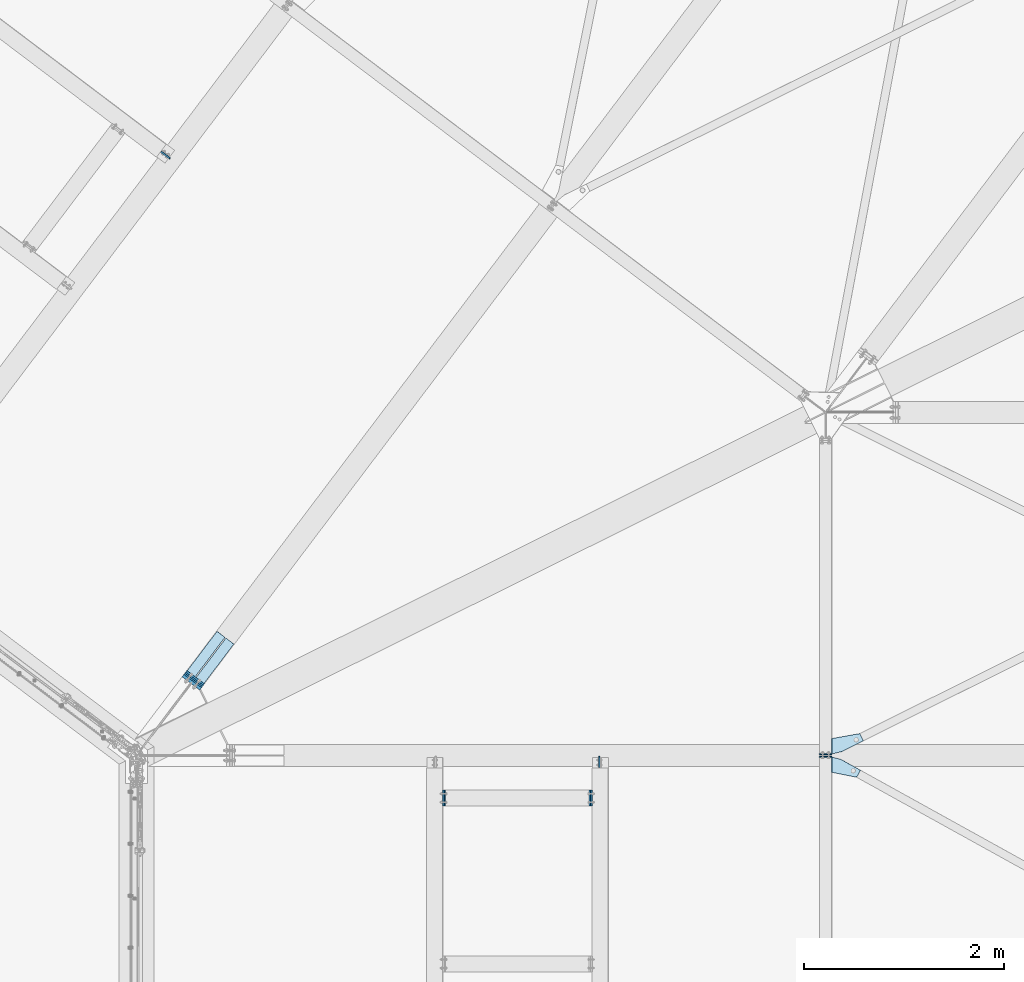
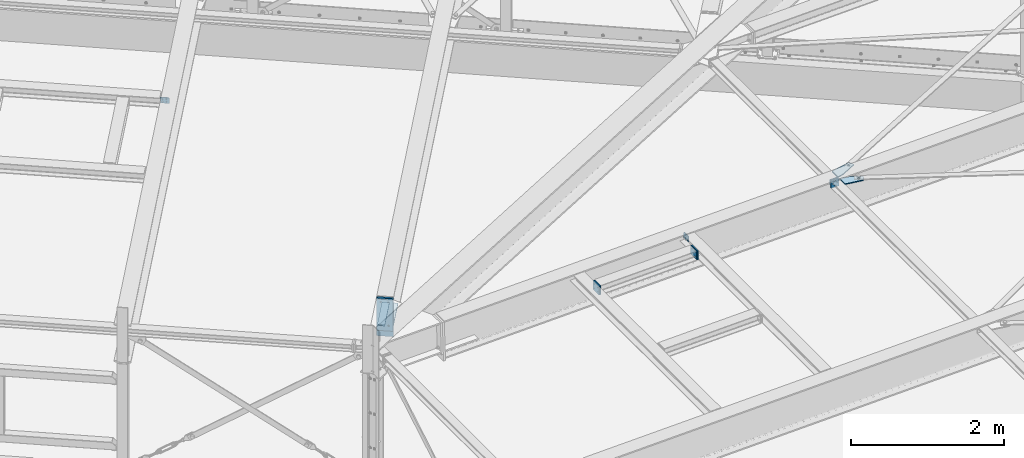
# One storey, part 53 of 476: 14 plates, 60 openings.
"""IFC2X3 building model written with IfcOpenShell, lengths in millimetres."""

import ifcopenshell
import ifcopenshell.guid

model = None  # the IFC model being written
_history = None  # IfcOwnerHistory: only IFC2X3 demands one
_inside = {}  # id of a spatial element -> (the spatial element, [elements in it])
_under = {}  # id of a project, library or spatial element -> (it, [spatial elements below it])
_declared = {}  # id of a project -> (the project, [libraries it declares])
_typed = {}  # id of a type object -> (the type object, [elements of that type])
_made_of = {}  # id of a material, layer set ... -> (it, [elements and type objects made of it])


def new_model(schema):
    """Start an empty IFC model of exactly this schema.

    Asked for "IFC4X3", IfcOpenShell would pick the latest addendum, in which some entities
    have other attributes; the version numbers below select the first issue.
    IFC2X3 requires an IfcOwnerHistory on every rooted entity: one is made here for all.
    """
    global model, _history
    if schema == "IFC4X3":
        model = ifcopenshell.file(schema_version=(4, 3, 0, 0))
    else:
        model = ifcopenshell.file(schema=schema)
    _inside.clear()
    _under.clear()
    _declared.clear()
    _typed.clear()
    _made_of.clear()
    _history = None
    if model.schema == "IFC2X3":
        org = make("IfcOrganization", Name="unknown")
        user = make(
            "IfcPersonAndOrganization",
            ThePerson=make("IfcPerson", FamilyName="unknown"),
            TheOrganization=org,
        )
        app = make(
            "IfcApplication",
            ApplicationDeveloper=org,
            Version="unknown",
            ApplicationFullName="unknown",
            ApplicationIdentifier="unknown",
        )
        _history = make(
            "IfcOwnerHistory",
            OwningUser=user,
            OwningApplication=app,
            ChangeAction="ADDED",
            CreationDate=0,
        )
    return model


def make(cls, **values):
    """One entity of the class cls with the attributes given. An attribute that is None is left unset."""
    return model.create_entity(
        cls, **{name: value for name, value in values.items() if value is not None}
    )


def entity(cls, *values):
    """Any entity or typed value of the class cls, its attributes in the order of the schema. None: left unset."""
    e = model.create_entity(cls)
    for i, value in enumerate(values):
        if value is not None:
            e[i] = value
    return e


def rooted(cls, **values):
    """An entity with a GlobalId (a new one), such as an element, a storey or a relation."""
    return make(cls, GlobalId=ifcopenshell.guid.new(), OwnerHistory=_history, **values)


def si_unit(unit_type, name, prefix=None):
    """IfcSIUnit, for example si_unit("LENGTHUNIT", "METRE", prefix="MILLI")."""
    return make("IfcSIUnit", UnitType=unit_type, Prefix=prefix, Name=name)


def converted_unit(unit_type, name, factor, base, dimensions=None, offset=None):
    """IfcConversionBasedUnit, such as the inch: factor (a typed value) times the base unit."""
    return make(
        "IfcConversionBasedUnit"
        if offset is None
        else "IfcConversionBasedUnitWithOffset",
        ConversionOffset=offset,
        Dimensions=None
        if dimensions is None
        else entity("IfcDimensionalExponents", *dimensions),
        UnitType=unit_type,
        Name=name,
        ConversionFactor=make(
            "IfcMeasureWithUnit", ValueComponent=factor, UnitComponent=base
        ),
    )


def assignment(units):
    """IfcUnitAssignment: the units of a project."""
    return None if units is None else make("IfcUnitAssignment", Units=units)


def point(xyz):
    """IfcCartesianPoint."""
    return None if xyz is None else make("IfcCartesianPoint", Coordinates=xyz)


def direction(xyz):
    """IfcDirection."""
    return None if xyz is None else make("IfcDirection", DirectionRatios=xyz)


def frame(location, z_axis=None, x_axis=None):
    """IfcAxis2Placement3D, a coordinate frame: its origin and axes. An axis left out is left unset."""
    return make(
        "IfcAxis2Placement3D",
        Location=point(location),
        Axis=direction(z_axis),
        RefDirection=direction(x_axis),
    )


def frame_2d(location, x_axis=None):
    """IfcAxis2Placement2D, a coordinate frame in the plane: its origin and x axis."""
    return make(
        "IfcAxis2Placement2D", Location=point(location), RefDirection=direction(x_axis)
    )


def origin():
    """The frame at (0, 0, 0) with its axes left unset."""
    return frame((0.0, 0.0, 0.0))


def origin_with_axes():
    """The frame at (0, 0, 0) with the z axis (0, 0, 1) and the x axis (1, 0, 0) written out."""
    return frame((0.0, 0.0, 0.0), z_axis=(0.0, 0.0, 1.0), x_axis=(1.0, 0.0, 0.0))


def origin_2d_with_axis():
    """The frame at (0, 0) in the plane with the x axis (1, 0) written out."""
    return frame_2d((0.0, 0.0), x_axis=(1.0, 0.0))


def place(relative_to, where):
    """IfcLocalPlacement: puts the frame where relative to a parent placement (None: the world)."""
    return make(
        "IfcLocalPlacement", PlacementRelTo=relative_to, RelativePlacement=where
    )


def context(
    kind, dimensions, precision=None, world=None, true_north=None, identifier=None
):
    """IfcGeometricRepresentationContext, for example the 3D "Model" context."""
    return make(
        "IfcGeometricRepresentationContext",
        ContextIdentifier=identifier,
        ContextType=kind,
        CoordinateSpaceDimension=dimensions,
        Precision=precision,
        WorldCoordinateSystem=world,
        TrueNorth=true_north,
    )


def project(units=None, contexts=None):
    """IfcProject with its units and contexts."""
    return rooted(
        "IfcProject",
        Name="project",
        RepresentationContexts=contexts,
        UnitsInContext=assignment(units),
    )


def spatial(cls, under=None, at=None, **own):
    """A site, building, storey or space (cls), placed at a placement, below another one or the project."""
    s = rooted(cls, ObjectPlacement=at, **own)
    if under is not None:
        _under.setdefault(under.id(), (under, []))[1].append(s)
    return s


def polyline(points):
    """IfcPolyline through the points."""
    return make("IfcPolyline", Points=[point(p) for p in points])


def circle_curve(where, radius):
    """IfcCircle in the frame where."""
    return make("IfcCircle", Position=where, Radius=radius)


def line_curve(start, along, magnitude):
    """IfcLine from a point along a vector."""
    return make(
        "IfcLine",
        Pnt=point(start),
        Dir=make("IfcVector", Orientation=direction(along), Magnitude=magnitude),
    )


def trimmed(basis, trim1, trim2, sense, master):
    """IfcTrimmedCurve: the piece of a basis curve between two trims."""
    return make(
        "IfcTrimmedCurve",
        BasisCurve=basis,
        Trim1=trim1,
        Trim2=trim2,
        SenseAgreement=sense,
        MasterRepresentation=master,
    )


def segment(curve, same_sense, transition):
    """IfcCompositeCurveSegment."""
    return make(
        "IfcCompositeCurveSegment",
        Transition=transition,
        SameSense=same_sense,
        ParentCurve=curve,
    )


def composite_curve(segments, self_intersect=None):
    """IfcCompositeCurve: segments joined end to end."""
    return make("IfcCompositeCurve", Segments=segments, SelfIntersect=self_intersect)


def profile(cls, at=None, kind="AREA", **sizes):
    """A parametric profile (cls). Its sizes go by their IFC names, for example OverallWidth=200.0."""
    return make(cls, ProfileType=kind, Position=at, **sizes)


def circle(**sizes):
    """IfcCircleProfileDef."""
    return profile("IfcCircleProfileDef", **sizes)


def outline(outer, holes=None, kind="AREA"):
    """IfcArbitraryClosedProfileDef: a profile drawn as a closed curve; with holes, ...WithVoids."""
    if holes is None:
        return make("IfcArbitraryClosedProfileDef", ProfileType=kind, OuterCurve=outer)
    return make(
        "IfcArbitraryProfileDefWithVoids",
        ProfileType=kind,
        OuterCurve=outer,
        InnerCurves=holes,
    )


def extrude(swept, where, along, depth):
    """IfcExtrudedAreaSolid: the profile swept, set in the frame where, extruded along a direction by depth."""
    return make(
        "IfcExtrudedAreaSolid",
        SweptArea=swept,
        Position=where,
        ExtrudedDirection=direction(along),
        Depth=depth,
    )


def shape(context_of_items, identifier, shape_type, items):
    """IfcShapeRepresentation: the items that make up one representation, for example the "Body"."""
    return make(
        "IfcShapeRepresentation",
        ContextOfItems=context_of_items,
        RepresentationIdentifier=identifier,
        RepresentationType=shape_type,
        Items=items,
    )


def material(Name=None, Category=None):
    """IfcMaterial."""
    return make("IfcMaterial", Name=Name, Category=Category)


def layer(
    of_material, thickness, ventilated=None, Name=None, Category=None, Priority=None
):
    """IfcMaterialLayer: one layer of a wall or slab, of a material (None: an air gap)."""
    return make(
        "IfcMaterialLayer",
        Material=of_material,
        LayerThickness=thickness,
        IsVentilated=ventilated,
        Name=Name,
        Category=Category,
        Priority=Priority,
    )


def layer_set(layers, Name=None):
    """IfcMaterialLayerSet."""
    return make("IfcMaterialLayerSet", MaterialLayers=layers, LayerSetName=Name)


def made_of(thing, what):
    """Note that an element or type object is made of a material, layer set ...; save() writes the relation."""
    if what is not None:
        _made_of.setdefault(what.id(), (what, []))[1].append(thing)
    return thing


def element(
    cls,
    number,
    at=None,
    inside=None,
    cuts=None,
    type_object=None,
    material=None,
    context=None,
    identifier="Body",
    shape_type=None,
    held_by="IfcProductDefinitionShape",
    body=None,
    shapes=None,
    **own,
):
    """One element of the class cls, such as IfcWall. Its Tag is "e" and its number.

    at: its placement. inside: the storey or other place that contains it. cuts: it is an
    opening in that element (IfcRelVoidsElement). A single representation is given by context,
    identifier, shape_type and body (its items); several are given by shapes. held_by: the class
    of the entity that holds the representations. save() writes the other relations.
    """
    e = rooted(cls, Tag="e%d" % number, ObjectPlacement=at, **own)
    if body is not None:
        shapes = [shape(context, identifier, shape_type, body)]
    if shapes is not None:
        e.Representation = make(held_by, Representations=shapes)
    if inside is not None:
        _inside.setdefault(inside.id(), (inside, []))[1].append(e)
    if cuts is not None:
        rooted(
            "IfcRelVoidsElement", RelatingBuildingElement=cuts, RelatedOpeningElement=e
        )
    if type_object is not None:
        _typed.setdefault(type_object.id(), (type_object, []))[1].append(e)
    return made_of(e, material)


def aggregate(whole, parts):
    """IfcRelAggregates: a whole, such as a stair, and the parts it consists of."""
    return rooted("IfcRelAggregates", RelatingObject=whole, RelatedObjects=parts)


def save(model, path):
    """Write the relations noted so far, then the file.

    IfcRelAggregates (storeys below a building ...), IfcRelContainedInSpatialStructure (elements
    in a storey), IfcRelDefinesByType, IfcRelAssociatesMaterial and IfcRelDeclares: one each for
    every whole, place, type object, material and project.
    """
    for whole, parts in _under.values():
        aggregate(whole, parts)
    for where, things in _inside.values():
        rooted(
            "IfcRelContainedInSpatialStructure",
            RelatedElements=things,
            RelatingStructure=where,
        )
    for kind, things in _typed.values():
        rooted("IfcRelDefinesByType", RelatedObjects=things, RelatingType=kind)
    for what, things in _made_of.values():
        rooted("IfcRelAssociatesMaterial", RelatedObjects=things, RelatingMaterial=what)
    for by, libraries in _declared.values():
        rooted("IfcRelDeclares", RelatingContext=by, RelatedDefinitions=libraries)
    model.write(path)


model = new_model("IFC2X3")

# Units and contexts
model_context = context("Model", 3, precision=1e-09, world=origin_with_axes())
ifc_project = project(units=[si_unit("LENGTHUNIT", "METRE", prefix="MILLI"), si_unit("AREAUNIT", "SQUARE_METRE"), si_unit("VOLUMEUNIT", "CUBIC_METRE"), converted_unit("PLANEANGLEUNIT", "DEGREE", entity("IfcPlaneAngleMeasure", 0.01745329), si_unit("PLANEANGLEUNIT", "RADIAN"), dimensions=[0, 0, 0, 0, 0, 0, 0])], contexts=[model_context])

# Site, building, storey
site_placement = place(None, origin_with_axes())
site = spatial("IfcSite", under=ifc_project, at=site_placement, Name="mKR Teilneubau & Sanierung BA1 - Ostfildern", CompositionType="ELEMENT")
building_placement = place(site_placement, origin_with_axes())
building = spatial("IfcBuilding", under=site, at=building_placement, Name="Struktur 1", CompositionType="ELEMENT")
storey_placement = place(building_placement, origin_with_axes())
storey = spatial("IfcBuildingStorey", under=building, at=storey_placement, Name="Default Storey", CompositionType="ELEMENT", Elevation=0.0)

# Plate, openings
ifc_material = material(Name="S235JR")
ifc_layer_1 = layer(ifc_material, 15.0)
ifc_layer_set_1 = layer_set([ifc_layer_1], Name="S235JR")
plate_1_placement = place(None, frame((15123.866061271, -5966.67487897, 5423.533418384), z_axis=(0.030019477, 0.0, -0.999549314), x_axis=(0.999549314, 0.0, 0.030019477)))
plate_1 = element("IfcPlate", 1, at=plate_1_placement, inside=storey, material=ifc_layer_set_1, Name="-", ObjectType="-", context=model_context, shape_type="SweptSolid", body=[
    extrude(outline(polyline([(0.0, 0.0), (55.140356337, 0.0), (291.381008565, 130.729269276), (252.646618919, 200.726934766), (1e-09, 150.0), (0.0, 0.0)])), origin_with_axes(), (0.0, 0.0, 1.0), 15.0),
])
opening_1_placement = place(plate_1_placement, frame((0.0, 0.0, -0.01), z_axis=(0.0, 0.0, 1.0), x_axis=(1.0, 0.0, 0.0)))
element("IfcOpeningElement", 2, at=opening_1_placement, cuts=plate_1, ObjectType="Opening", context=model_context, shape_type="SweptSolid", body=[
    extrude(outline(composite_curve([segment(trimmed(line_curve((55.140356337, 0.0), (0.874966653, 0.484183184), 45.191234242), [point((55.140356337, 0.0))], [point((94.681179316, 21.880835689))], True, "CARTESIAN"), True, "CONTINUOUS"), segment(trimmed(circle_curve(frame_2d((9.949122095, 175.0), x_axis=(-1.0, 0.0)), 175.0), [point((94.681179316, 21.880835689))], [point((9.949122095, 0.0))], False, "CARTESIAN"), True, "CONTINUOUS"), segment(trimmed(line_curve((9.949122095, 0.0), (1.0, 0.0), 45.191234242), [point((9.949122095, 0.0))], [point((55.140356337, 0.0))], True, "CARTESIAN"), True, "CONTINUOUS")], self_intersect=False)), origin(), (0.0, 0.0, 1.0), 15.02),
])
opening_2_placement = place(plate_1_placement, frame((1e-09, 151.607257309, 0.0), z_axis=(0.0, -1.0, 0.0), x_axis=(1.0, 0.0, 0.0)))
element("IfcOpeningElement", 3, at=opening_2_placement, cuts=plate_1, ObjectType="Opening", context=model_context, shape_type="SweptSolid", body=[
    extrude(outline(polyline([(0.0, 0.0), (8.0, 0.0), (0.0, 8.0), (0.0, 0.0)])), origin(), (0.0, 0.0, 1.0), 151.628257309),
])
opening_3_placement = place(plate_1_placement, frame((219.51589081, 136.676196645, 15.499690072), z_axis=(-2.2474e-05, 0.0, -1.0), x_axis=(-0.874966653, -0.484183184, 1.9664e-05)))
element("IfcOpeningElement", 4, at=opening_3_placement, cuts=plate_1, ObjectType="Opening", context=model_context, shape_type="SweptSolid", body=[
    extrude(circle(Radius=14.501, at=origin_2d_with_axis()), origin(), (0.0, 0.0, 1.0), 16.000000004),
])

plate_2_placement = place(None, frame((15123.865952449, -5930.67487897, 5423.533415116), z_axis=(-0.030019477, 0.0, 0.999549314), x_axis=(0.999549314, 0.0, 0.030019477)))
plate_2 = element("IfcPlate", 5, at=plate_2_placement, inside=storey, material=ifc_layer_set_1, Name="-", ObjectType="-", context=model_context, shape_type="SweptSolid", body=[
    extrude(outline(polyline([(0.0, 0.0), (60.928430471, 0.0), (320.162470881, 129.005250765), (284.520294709, 200.626722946), (1e-09, 150.0), (0.0, 0.0)])), origin_with_axes(), (0.0, 0.0, -1.0), 15.0),
])
opening_4_placement = place(plate_2_placement, frame((0.0, -0.001, 0.0), z_axis=(0.0, 1.0, 0.0), x_axis=(1.0, 0.0, 0.0)))
element("IfcOpeningElement", 6, at=opening_4_placement, cuts=plate_2, ObjectType="Opening", context=model_context, shape_type="SweptSolid", body=[
    extrude(outline(polyline([(0.0, 0.0), (8.0, 0.0), (0.0, 8.0), (0.0, 0.0)])), origin(), (0.0, 0.0, 1.0), 151.445496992),
])
opening_5_placement = place(plate_2_placement, frame((60.928430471, 0.0, 0.01), z_axis=(0.0, 0.0, 1.0), x_axis=(0.895270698, 0.445522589, 0.0)))
element("IfcOpeningElement", 7, at=opening_5_placement, cuts=plate_2, ObjectType="Opening", context=model_context, shape_type="SweptSolid", body=[
    extrude(outline(composite_curve([segment(trimmed(line_curve((0.0, 0.0), (1.0, 0.0), 41.13737061), [point((0.0, 0.0))], [point((41.13737061, 0.0))], True, "CARTESIAN"), True, "CONTINUOUS"), segment(trimmed(circle_curve(frame_2d((41.13737061, 175.0), x_axis=(-1.0, 0.0)), 175.0), [point((41.13737061, 0.0))], [point((-36.829082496, 18.327627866))], False, "CARTESIAN"), True, "CONTINUOUS"), segment(trimmed(line_curve((-36.829082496, 18.327627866), (0.895270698, -0.445522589), 41.13737061), [point((-36.829082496, 18.327627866))], [point((0.0, 0.0))], True, "CARTESIAN"), True, "CONTINUOUS")], self_intersect=False)), origin(), (0.0, 0.0, -1.0), 15.02),
])
opening_6_placement = place(plate_2_placement, frame((248.62761309, 138.086147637, -15.499690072), z_axis=(2.2474e-05, 0.0, 1.0), x_axis=(0.895271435, 0.445521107, -2.0121e-05)))
element("IfcOpeningElement", 8, at=opening_6_placement, cuts=plate_2, ObjectType="Opening", context=model_context, shape_type="SweptSolid", body=[
    extrude(circle(Radius=14.501, at=origin_2d_with_axis()), origin(), (0.0, 0.0, 1.0), 16.000000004),
])

# Plate
ifc_layer_2 = layer(ifc_material, 20.0)
ifc_layer_set_2 = layer_set([ifc_layer_2], Name="S235JR")
plate_3_placement = place(None, frame((8950.196412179, -5002.892205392, 4818.419980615), z_axis=(0.018107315, 0.023971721, -0.999548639), x_axis=(-0.797941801, 0.602734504, 0.0)))
element("IfcPlate", 9, at=plate_3_placement, inside=storey, material=ifc_layer_set_2, Name="-", ObjectType="-", context=model_context, shape_type="SweptSolid", body=[
    extrude(outline(polyline([(-50.0, -250.0), (50.0, -250.0), (50.0, 250.0), (-50.0, 250.0), (-50.0, -250.0)])), origin_with_axes(), (0.0, 0.0, -1.0), 20.0),
])

# Plate, openings
plate_4_placement = place(None, frame((12699.238358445, -6375.673034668, 5334.436682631), z_axis=(0.999549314, 0.0, 0.030019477), x_axis=(0.030019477, 0.0, -0.999549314)))
plate_4 = element("IfcPlate", 10, at=plate_4_placement, inside=storey, material=ifc_layer_set_1, Name="Endplate#1", ObjectType="Endplate#1", context=model_context, shape_type="SweptSolid", body=[
    extrude(outline(polyline([(-70.0, -80.0), (70.0, -80.0), (70.0, 80.0), (-70.0, 80.0), (-70.0, -80.0)])), origin_with_axes(), (0.0, 0.0, 1.0), 15.0),
])
opening_7_placement = place(plate_4_placement, frame((52.0, 18.0, 15.5), z_axis=(0.0, 0.0, -1.0), x_axis=(-1.0, 0.0, 0.0)))
element("IfcOpeningElement", 11, at=opening_7_placement, cuts=plate_4, ObjectType="Opening", context=model_context, shape_type="SweptSolid", body=[
    extrude(circle(Radius=6.001, at=origin_2d_with_axis()), origin(), (0.0, 0.0, 1.0), 16.0),
])
opening_8_placement = place(plate_4_placement, frame((-52.0, 18.0, 15.5), z_axis=(0.0, 0.0, -1.0), x_axis=(-1.0, 0.0, 0.0)))
element("IfcOpeningElement", 12, at=opening_8_placement, cuts=plate_4, ObjectType="Opening", context=model_context, shape_type="SweptSolid", body=[
    extrude(circle(Radius=6.001, at=origin_2d_with_axis()), origin(), (0.0, 0.0, 1.0), 16.0),
])
opening_9_placement = place(plate_4_placement, frame((-52.0, -18.0, 15.5), z_axis=(0.0, 0.0, -1.0), x_axis=(-1.0, 0.0, 0.0)))
element("IfcOpeningElement", 13, at=opening_9_placement, cuts=plate_4, ObjectType="Opening", context=model_context, shape_type="SweptSolid", body=[
    extrude(circle(Radius=6.001, at=origin_2d_with_axis()), origin(), (0.0, 0.0, 1.0), 16.0),
])
opening_10_placement = place(plate_4_placement, frame((52.0, -18.0, 15.5), z_axis=(0.0, 0.0, -1.0), x_axis=(-1.0, 0.0, 0.0)))
element("IfcOpeningElement", 14, at=opening_10_placement, cuts=plate_4, ObjectType="Opening", context=model_context, shape_type="SweptSolid", body=[
    extrude(circle(Radius=6.001, at=origin_2d_with_axis()), origin(), (0.0, 0.0, 1.0), 16.0),
])
opening_11_placement = place(plate_4_placement, frame((35.0, -43.0, 15.5), z_axis=(0.0, 0.0, -1.0), x_axis=(0.0, -1.0, 0.0)))
element("IfcOpeningElement", 15, at=opening_11_placement, cuts=plate_4, ObjectType="Opening", context=model_context, shape_type="SweptSolid", body=[
    extrude(circle(Radius=7.001, at=frame_2d((0.0, 70.0), x_axis=(1.0, 0.0))), origin(), (0.0, 0.0, 1.0), 16.0),
])
opening_12_placement = place(plate_4_placement, frame((35.0, -43.0, 15.5), z_axis=(0.0, 0.0, -1.0), x_axis=(0.0, -1.0, 0.0)))
element("IfcOpeningElement", 16, at=opening_12_placement, cuts=plate_4, ObjectType="Opening", context=model_context, shape_type="SweptSolid", body=[
    extrude(circle(Radius=7.001, at=origin_2d_with_axis()), origin(), (0.0, 0.0, 1.0), 16.0),
])
opening_13_placement = place(plate_4_placement, frame((35.0, 43.0, 15.5), z_axis=(0.0, 0.0, -1.0), x_axis=(-1.0, 0.0, 0.0)))
element("IfcOpeningElement", 17, at=opening_13_placement, cuts=plate_4, ObjectType="Opening", context=model_context, shape_type="SweptSolid", body=[
    extrude(circle(Radius=7.001, at=frame_2d((70.0, 0.0), x_axis=(1.0, 0.0))), origin(), (0.0, 0.0, 1.0), 16.0),
])
opening_14_placement = place(plate_4_placement, frame((35.0, 43.0, 15.5), z_axis=(0.0, 0.0, -1.0), x_axis=(-1.0, 0.0, 0.0)))
element("IfcOpeningElement", 18, at=opening_14_placement, cuts=plate_4, ObjectType="Opening", context=model_context, shape_type="SweptSolid", body=[
    extrude(circle(Radius=7.001, at=origin_2d_with_axis()), origin(), (0.0, 0.0, 1.0), 16.0),
])

plate_5_placement = place(None, frame((12729.224837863, -6375.673034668, 5335.33726695), z_axis=(-0.999549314, 0.0, -0.030019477), x_axis=(0.0, -1.0, 0.0)))
plate_5 = element("IfcPlate", 19, at=plate_5_placement, inside=storey, material=ifc_layer_set_1, Name="T-plate", ObjectType="T-plate", context=model_context, shape_type="SweptSolid", body=[
    extrude(outline(polyline([(-80.0, -70.0), (80.0, -70.0), (80.0, 70.0), (-80.0, 70.0), (-80.0, -70.0)])), origin_with_axes(), (0.0, 0.0, 1.0), 15.0),
])
opening_15_placement = place(plate_5_placement, frame((43.0, -35.0, -0.5), z_axis=(0.0, 0.0, 1.0), x_axis=(1.0, 0.0, 0.0)))
element("IfcOpeningElement", 20, at=opening_15_placement, cuts=plate_5, ObjectType="Opening", context=model_context, shape_type="SweptSolid", body=[
    extrude(circle(Radius=7.001, at=frame_2d((0.0, 70.0), x_axis=(1.0, 0.0))), origin(), (0.0, 0.0, 1.0), 16.0),
])
opening_16_placement = place(plate_5_placement, frame((43.0, -35.0, -0.5), z_axis=(0.0, 0.0, 1.0), x_axis=(1.0, 0.0, 0.0)))
element("IfcOpeningElement", 21, at=opening_16_placement, cuts=plate_5, ObjectType="Opening", context=model_context, shape_type="SweptSolid", body=[
    extrude(circle(Radius=7.001, at=origin_2d_with_axis()), origin(), (0.0, 0.0, 1.0), 16.0),
])
opening_17_placement = place(plate_5_placement, frame((-43.0, -35.0, -0.5), z_axis=(0.0, 0.0, 1.0), x_axis=(0.0, 1.0, 0.0)))
element("IfcOpeningElement", 22, at=opening_17_placement, cuts=plate_5, ObjectType="Opening", context=model_context, shape_type="SweptSolid", body=[
    extrude(circle(Radius=7.001, at=frame_2d((70.0, 0.0), x_axis=(1.0, 0.0))), origin(), (0.0, 0.0, 1.0), 16.0),
])
opening_18_placement = place(plate_5_placement, frame((-43.0, -35.0, -0.5), z_axis=(0.0, 0.0, 1.0), x_axis=(0.0, 1.0, 0.0)))
element("IfcOpeningElement", 23, at=opening_18_placement, cuts=plate_5, ObjectType="Opening", context=model_context, shape_type="SweptSolid", body=[
    extrude(circle(Radius=7.001, at=origin_2d_with_axis()), origin(), (0.0, 0.0, 1.0), 16.0),
])

plate_6_placement = place(None, frame((12807.629901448, -5954.67387897, 5289.709306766), z_axis=(-0.999549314, 0.0, -0.030019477), x_axis=(0.0, -1.0, 0.0)))
plate_6 = element("IfcPlate", 24, at=plate_6_placement, inside=storey, material=ifc_layer_set_1, Name="LugPlate#1", ObjectType="LugPlate#1", context=model_context, shape_type="SweptSolid", body=[
    extrude(outline(polyline([(0.0, 0.0), (115.0, 0.0), (115.0, 90.0), (0.0, 90.0), (0.0, 0.0)])), origin_with_axes(), (0.0, 0.0, 1.0), 15.0),
])
opening_19_placement = place(plate_6_placement, frame((0.0, 0.0, 15.1), z_axis=(0.0, 0.0, -1.0), x_axis=(-1.0, 0.0, 0.0)))
element("IfcOpeningElement", 25, at=opening_19_placement, cuts=plate_6, ObjectType="Opening", context=model_context, shape_type="SweptSolid", body=[
    extrude(outline(polyline([(0.001, 80.997518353), (0.001, 105.000932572), (-24.002414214, 105.000932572), (0.001, 80.997518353)])), origin(), (0.0, 0.0, 1.0), 15.2),
])
opening_20_placement = place(plate_6_placement, frame((40.0, 65.0, 15.5), z_axis=(0.0, 0.0, -1.0), x_axis=(1.0, 0.0, 0.0)))
element("IfcOpeningElement", 26, at=opening_20_placement, cuts=plate_6, ObjectType="Opening", context=model_context, shape_type="SweptSolid", body=[
    extrude(circle(Radius=7.001, at=frame_2d((50.0, 40.0), x_axis=(1.0, 0.0))), origin(), (0.0, 0.0, 1.0), 16.0),
])
opening_21_placement = place(plate_6_placement, frame((40.0, 65.0, 15.5), z_axis=(0.0, 0.0, -1.0), x_axis=(1.0, 0.0, 0.0)))
element("IfcOpeningElement", 27, at=opening_21_placement, cuts=plate_6, ObjectType="Opening", context=model_context, shape_type="SweptSolid", body=[
    extrude(circle(Radius=7.001, at=frame_2d((0.0, 40.0), x_axis=(1.0, 0.0))), origin(), (0.0, 0.0, 1.0), 16.0),
])
opening_22_placement = place(plate_6_placement, frame((40.0, 65.0, 15.5), z_axis=(0.0, 0.0, -1.0), x_axis=(1.0, 0.0, 0.0)))
element("IfcOpeningElement", 28, at=opening_22_placement, cuts=plate_6, ObjectType="Opening", context=model_context, shape_type="SweptSolid", body=[
    extrude(circle(Radius=7.001, at=frame_2d((50.0, 0.0), x_axis=(1.0, 0.0))), origin(), (0.0, 0.0, 1.0), 16.0),
])
opening_23_placement = place(plate_6_placement, frame((40.0, 65.0, 15.5), z_axis=(0.0, 0.0, -1.0), x_axis=(1.0, 0.0, 0.0)))
element("IfcOpeningElement", 29, at=opening_23_placement, cuts=plate_6, ObjectType="Opening", context=model_context, shape_type="SweptSolid", body=[
    extrude(circle(Radius=7.001, at=origin_2d_with_axis()), origin(), (0.0, 0.0, 1.0), 16.0),
])

plate_7_placement = place(None, frame((11259.887346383, -6375.673034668, 5291.208635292), z_axis=(-0.999549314, 0.0, -0.030019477), x_axis=(0.030019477, 0.0, -0.999549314)))
plate_7 = element("IfcPlate", 30, at=plate_7_placement, inside=storey, material=ifc_layer_set_1, Name="Endplate#1", ObjectType="Endplate#1", context=model_context, shape_type="SweptSolid", body=[
    extrude(outline(polyline([(-70.0, -80.0), (70.0, -80.0), (70.0, 80.0), (-70.0, 80.0), (-70.0, -80.0)])), origin_with_axes(), (0.0, 0.0, 1.0), 15.0),
])
opening_24_placement = place(plate_7_placement, frame((52.0, -18.0, 15.5), z_axis=(0.0, 0.0, -1.0), x_axis=(1.0, 0.0, 0.0)))
element("IfcOpeningElement", 31, at=opening_24_placement, cuts=plate_7, ObjectType="Opening", context=model_context, shape_type="SweptSolid", body=[
    extrude(circle(Radius=6.001, at=origin_2d_with_axis()), origin(), (0.0, 0.0, 1.0), 16.0),
])
opening_25_placement = place(plate_7_placement, frame((-52.0, -18.0, 15.5), z_axis=(0.0, 0.0, -1.0), x_axis=(1.0, 0.0, 0.0)))
element("IfcOpeningElement", 32, at=opening_25_placement, cuts=plate_7, ObjectType="Opening", context=model_context, shape_type="SweptSolid", body=[
    extrude(circle(Radius=6.001, at=origin_2d_with_axis()), origin(), (0.0, 0.0, 1.0), 16.0),
])
opening_26_placement = place(plate_7_placement, frame((-52.0, 18.0, 15.5), z_axis=(0.0, 0.0, -1.0), x_axis=(1.0, 0.0, 0.0)))
element("IfcOpeningElement", 33, at=opening_26_placement, cuts=plate_7, ObjectType="Opening", context=model_context, shape_type="SweptSolid", body=[
    extrude(circle(Radius=6.001, at=origin_2d_with_axis()), origin(), (0.0, 0.0, 1.0), 16.0),
])
opening_27_placement = place(plate_7_placement, frame((52.0, 18.0, 15.5), z_axis=(0.0, 0.0, -1.0), x_axis=(1.0, 0.0, 0.0)))
element("IfcOpeningElement", 34, at=opening_27_placement, cuts=plate_7, ObjectType="Opening", context=model_context, shape_type="SweptSolid", body=[
    extrude(circle(Radius=6.001, at=origin_2d_with_axis()), origin(), (0.0, 0.0, 1.0), 16.0),
])
opening_28_placement = place(plate_7_placement, frame((35.0, 43.0, 15.5), z_axis=(0.0, 0.0, -1.0), x_axis=(-1.0, 0.0, 0.0)))
element("IfcOpeningElement", 35, at=opening_28_placement, cuts=plate_7, ObjectType="Opening", context=model_context, shape_type="SweptSolid", body=[
    extrude(circle(Radius=7.001, at=frame_2d((70.0, 0.0), x_axis=(1.0, 0.0))), origin(), (0.0, 0.0, 1.0), 16.0),
])
opening_29_placement = place(plate_7_placement, frame((35.0, 43.0, 15.5), z_axis=(0.0, 0.0, -1.0), x_axis=(-1.0, 0.0, 0.0)))
element("IfcOpeningElement", 36, at=opening_29_placement, cuts=plate_7, ObjectType="Opening", context=model_context, shape_type="SweptSolid", body=[
    extrude(circle(Radius=7.001, at=origin_2d_with_axis()), origin(), (0.0, 0.0, 1.0), 16.0),
])
opening_30_placement = place(plate_7_placement, frame((35.0, -43.0, 15.5), z_axis=(0.0, 0.0, -1.0), x_axis=(0.0, -1.0, 0.0)))
element("IfcOpeningElement", 37, at=opening_30_placement, cuts=plate_7, ObjectType="Opening", context=model_context, shape_type="SweptSolid", body=[
    extrude(circle(Radius=7.001, at=frame_2d((0.0, 70.0), x_axis=(1.0, 0.0))), origin(), (0.0, 0.0, 1.0), 16.0),
])
opening_31_placement = place(plate_7_placement, frame((35.0, -43.0, 15.5), z_axis=(0.0, 0.0, -1.0), x_axis=(0.0, -1.0, 0.0)))
element("IfcOpeningElement", 38, at=opening_31_placement, cuts=plate_7, ObjectType="Opening", context=model_context, shape_type="SweptSolid", body=[
    extrude(circle(Radius=7.001, at=origin_2d_with_axis()), origin(), (0.0, 0.0, 1.0), 16.0),
])

plate_8_placement = place(None, frame((11229.900866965, -6375.673034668, 5290.308050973), z_axis=(0.999549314, 0.0, 0.030019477), x_axis=(0.0, 1.0, 0.0)))
plate_8 = element("IfcPlate", 39, at=plate_8_placement, inside=storey, material=ifc_layer_set_1, Name="T-plate", ObjectType="T-plate", context=model_context, shape_type="SweptSolid", body=[
    extrude(outline(polyline([(-80.0, -70.0), (80.0, -70.0), (80.0, 70.0), (-80.0, 70.0), (-80.0, -70.0)])), origin_with_axes(), (0.0, 0.0, 1.0), 15.0),
])
opening_32_placement = place(plate_8_placement, frame((-43.0, -35.0, -0.5), z_axis=(0.0, 0.0, 1.0), x_axis=(0.0, 1.0, 0.0)))
element("IfcOpeningElement", 40, at=opening_32_placement, cuts=plate_8, ObjectType="Opening", context=model_context, shape_type="SweptSolid", body=[
    extrude(circle(Radius=7.001, at=frame_2d((70.0, 0.0), x_axis=(1.0, 0.0))), origin(), (0.0, 0.0, 1.0), 16.0),
])
opening_33_placement = place(plate_8_placement, frame((-43.0, -35.0, -0.5), z_axis=(0.0, 0.0, 1.0), x_axis=(0.0, 1.0, 0.0)))
element("IfcOpeningElement", 41, at=opening_33_placement, cuts=plate_8, ObjectType="Opening", context=model_context, shape_type="SweptSolid", body=[
    extrude(circle(Radius=7.001, at=origin_2d_with_axis()), origin(), (0.0, 0.0, 1.0), 16.0),
])
opening_34_placement = place(plate_8_placement, frame((43.0, -35.0, -0.5), z_axis=(0.0, 0.0, 1.0), x_axis=(1.0, 0.0, 0.0)))
element("IfcOpeningElement", 42, at=opening_34_placement, cuts=plate_8, ObjectType="Opening", context=model_context, shape_type="SweptSolid", body=[
    extrude(circle(Radius=7.001, at=frame_2d((0.0, 70.0), x_axis=(1.0, 0.0))), origin(), (0.0, 0.0, 1.0), 16.0),
])
opening_35_placement = place(plate_8_placement, frame((43.0, -35.0, -0.5), z_axis=(0.0, 0.0, 1.0), x_axis=(1.0, 0.0, 0.0)))
element("IfcOpeningElement", 43, at=opening_35_placement, cuts=plate_8, ObjectType="Opening", context=model_context, shape_type="SweptSolid", body=[
    extrude(circle(Radius=7.001, at=origin_2d_with_axis()), origin(), (0.0, 0.0, 1.0), 16.0),
])

plate_9_placement = place(None, frame((8507.220159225, 31.928027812, 5389.850140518), z_axis=(-0.602462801, -0.797581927, -0.030027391), x_axis=(-0.797941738, 0.602734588, 0.0)))
plate_9 = element("IfcPlate", 44, at=plate_9_placement, inside=storey, material=ifc_layer_set_1, Name="LugPlate#2", ObjectType="LugPlate#2", context=model_context, shape_type="SweptSolid", body=[
    extrude(outline(polyline([(0.0, 0.0), (115.000000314, 0.0), (115.000000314, 90.0), (0.0, 90.0), (0.0, 0.0)])), origin_with_axes(), (0.0, 0.0, 1.0), 15.0),
])
opening_36_placement = place(plate_9_placement, frame((0.0, 0.0, -0.1), z_axis=(0.0, 0.0, 1.0), x_axis=(-1.0, 0.0, 0.0)))
element("IfcOpeningElement", 45, at=opening_36_placement, cuts=plate_9, ObjectType="Opening", context=model_context, shape_type="SweptSolid", body=[
    extrude(outline(polyline([(0.000999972, -9.002457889), (0.001000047, 15.000956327), (-24.002414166, 15.000956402), (0.000999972, -9.002457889)])), origin(), (0.0, 0.0, 1.0), 15.2),
])
opening_37_placement = place(plate_9_placement, frame((40.000000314, 25.0, -0.5), z_axis=(0.0, 0.0, 1.0), x_axis=(1.0, 0.0, 0.0)))
element("IfcOpeningElement", 46, at=opening_37_placement, cuts=plate_9, ObjectType="Opening", context=model_context, shape_type="SweptSolid", body=[
    extrude(circle(Radius=7.001, at=frame_2d((50.0, 40.0), x_axis=(1.0, 0.0))), origin(), (0.0, 0.0, 1.0), 16.0),
])
opening_38_placement = place(plate_9_placement, frame((40.000000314, 25.0, -0.5), z_axis=(0.0, 0.0, 1.0), x_axis=(1.0, 0.0, 0.0)))
element("IfcOpeningElement", 47, at=opening_38_placement, cuts=plate_9, ObjectType="Opening", context=model_context, shape_type="SweptSolid", body=[
    extrude(circle(Radius=7.001, at=frame_2d((0.0, 40.0), x_axis=(1.0, 0.0))), origin(), (0.0, 0.0, 1.0), 16.0),
])
opening_39_placement = place(plate_9_placement, frame((40.000000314, 25.0, -0.5), z_axis=(0.0, 0.0, 1.0), x_axis=(1.0, 0.0, 0.0)))
element("IfcOpeningElement", 48, at=opening_39_placement, cuts=plate_9, ObjectType="Opening", context=model_context, shape_type="SweptSolid", body=[
    extrude(circle(Radius=7.001, at=frame_2d((50.0, 0.0), x_axis=(1.0, 0.0))), origin(), (0.0, 0.0, 1.0), 16.0),
])
opening_40_placement = place(plate_9_placement, frame((40.000000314, 25.0, -0.5), z_axis=(0.0, 0.0, 1.0), x_axis=(1.0, 0.0, 0.0)))
element("IfcOpeningElement", 49, at=opening_40_placement, cuts=plate_9, ObjectType="Opening", context=model_context, shape_type="SweptSolid", body=[
    extrude(circle(Radius=7.001, at=origin_2d_with_axis()), origin(), (0.0, 0.0, 1.0), 16.0),
])

ifc_layer_3 = layer(ifc_material, 12.0)
ifc_layer_set_3 = layer_set([ifc_layer_3], Name="S235JR")
plate_10_placement = place(None, frame((15123.720531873, -5954.67387897, 5428.37543939), z_axis=(0.0, -1.0, 0.0), x_axis=(-0.999549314, 0.0, -0.030019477)))
plate_10 = element("IfcPlate", 50, at=plate_10_placement, inside=storey, material=ifc_layer_set_3, Name="Endplate", ObjectType="Endplate", context=model_context, shape_type="SweptSolid", body=[
    extrude(outline(polyline([(0.0, 0.0), (120.0, 0.0), (120.0, 124.0), (0.0, 124.0), (0.0, 0.0)])), origin_with_axes(), (0.0, 0.0, 1.0), 12.0),
])
opening_41_placement = place(plate_10_placement, frame((74.5, 99.0, -0.5), z_axis=(0.0, 0.0, 1.0), x_axis=(0.0, -1.0, 0.0)))
element("IfcOpeningElement", 51, at=opening_41_placement, cuts=plate_10, ObjectType="Opening", context=model_context, shape_type="SweptSolid", body=[
    extrude(circle(Radius=6.001, at=origin_2d_with_axis()), origin(), (0.0, 0.0, 1.0), 13.0),
])
opening_42_placement = place(plate_10_placement, frame((74.5, 25.0, -0.5), z_axis=(0.0, 0.0, 1.0), x_axis=(0.0, -1.0, 0.0)))
element("IfcOpeningElement", 52, at=opening_42_placement, cuts=plate_10, ObjectType="Opening", context=model_context, shape_type="SweptSolid", body=[
    extrude(circle(Radius=6.001, at=origin_2d_with_axis()), origin(), (0.0, 0.0, 1.0), 13.0),
])
opening_43_placement = place(plate_10_placement, frame((45.5, 25.0, -0.5), z_axis=(0.0, 0.0, 1.0), x_axis=(0.0, -1.0, 0.0)))
element("IfcOpeningElement", 53, at=opening_43_placement, cuts=plate_10, ObjectType="Opening", context=model_context, shape_type="SweptSolid", body=[
    extrude(circle(Radius=6.001, at=origin_2d_with_axis()), origin(), (0.0, 0.0, 1.0), 13.0),
])
opening_44_placement = place(plate_10_placement, frame((45.5, 99.0, -0.5), z_axis=(0.0, 0.0, 1.0), x_axis=(0.0, -1.0, 0.0)))
element("IfcOpeningElement", 54, at=opening_44_placement, cuts=plate_10, ObjectType="Opening", context=model_context, shape_type="SweptSolid", body=[
    extrude(circle(Radius=6.001, at=origin_2d_with_axis()), origin(), (0.0, 0.0, 1.0), 13.0),
])
opening_45_placement = place(plate_10_placement, frame((89.999999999, 62.000112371, -0.5), z_axis=(0.0, 0.0, 1.0), x_axis=(0.0, -1.0, 0.0)))
element("IfcOpeningElement", 55, at=opening_45_placement, cuts=plate_10, ObjectType="Opening", context=model_context, shape_type="SweptSolid", body=[
    extrude(circle(Radius=7.001, at=origin_2d_with_axis()), origin(), (0.0, 0.0, 1.0), 13.0),
])
opening_46_placement = place(plate_10_placement, frame((30.000000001, 61.999887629, -0.5), z_axis=(0.0, 0.0, 1.0), x_axis=(0.0, -1.0, 0.0)))
element("IfcOpeningElement", 56, at=opening_46_placement, cuts=plate_10, ObjectType="Opening", context=model_context, shape_type="SweptSolid", body=[
    extrude(circle(Radius=7.001, at=origin_2d_with_axis()), origin(), (0.0, 0.0, 1.0), 13.0),
])

plate_11_placement = place(None, frame((15003.774614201, -5942.67387897, 5424.773102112), z_axis=(0.0, 1.0, 0.0), x_axis=(0.999549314, 0.0, 0.030019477)))
plate_11 = element("IfcPlate", 57, at=plate_11_placement, inside=storey, material=ifc_layer_set_3, Name="Endplate", ObjectType="Endplate", context=model_context, shape_type="SweptSolid", body=[
    extrude(outline(polyline([(0.0, 0.0), (120.0, 0.0), (120.0, 124.0), (0.0, 124.0), (0.0, 0.0)])), origin_with_axes(), (0.0, 0.0, 1.0), 12.0),
])
opening_47_placement = place(plate_11_placement, frame((89.999999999, 61.999887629, 12.5), z_axis=(0.0, 0.0, -1.0), x_axis=(0.0, -1.0, 0.0)))
element("IfcOpeningElement", 58, at=opening_47_placement, cuts=plate_11, ObjectType="Opening", context=model_context, shape_type="SweptSolid", body=[
    extrude(circle(Radius=7.001, at=origin_2d_with_axis()), origin(), (0.0, 0.0, 1.0), 13.0),
])
opening_48_placement = place(plate_11_placement, frame((30.000000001, 62.000112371, 12.5), z_axis=(0.0, 0.0, -1.0), x_axis=(0.0, -1.0, 0.0)))
element("IfcOpeningElement", 59, at=opening_48_placement, cuts=plate_11, ObjectType="Opening", context=model_context, shape_type="SweptSolid", body=[
    extrude(circle(Radius=7.001, at=origin_2d_with_axis()), origin(), (0.0, 0.0, 1.0), 13.0),
])
opening_49_placement = place(plate_11_placement, frame((45.5, 99.0, -0.5), z_axis=(0.0, 0.0, 1.0), x_axis=(0.0, 1.0, 0.0)))
element("IfcOpeningElement", 60, at=opening_49_placement, cuts=plate_11, ObjectType="Opening", context=model_context, shape_type="SweptSolid", body=[
    extrude(circle(Radius=6.001, at=origin_2d_with_axis()), origin(), (0.0, 0.0, 1.0), 13.0),
])
opening_50_placement = place(plate_11_placement, frame((45.5, 25.0, -0.5), z_axis=(0.0, 0.0, 1.0), x_axis=(0.0, 1.0, 0.0)))
element("IfcOpeningElement", 61, at=opening_50_placement, cuts=plate_11, ObjectType="Opening", context=model_context, shape_type="SweptSolid", body=[
    extrude(circle(Radius=6.001, at=origin_2d_with_axis()), origin(), (0.0, 0.0, 1.0), 13.0),
])
opening_51_placement = place(plate_11_placement, frame((74.5, 25.0, -0.5), z_axis=(0.0, 0.0, 1.0), x_axis=(0.0, 1.0, 0.0)))
element("IfcOpeningElement", 62, at=opening_51_placement, cuts=plate_11, ObjectType="Opening", context=model_context, shape_type="SweptSolid", body=[
    extrude(circle(Radius=6.001, at=origin_2d_with_axis()), origin(), (0.0, 0.0, 1.0), 13.0),
])
opening_52_placement = place(plate_11_placement, frame((74.5, 99.0, -0.5), z_axis=(0.0, 0.0, 1.0), x_axis=(0.0, 1.0, 0.0)))
element("IfcOpeningElement", 63, at=opening_52_placement, cuts=plate_11, ObjectType="Opening", context=model_context, shape_type="SweptSolid", body=[
    extrude(circle(Radius=6.001, at=origin_2d_with_axis()), origin(), (0.0, 0.0, 1.0), 13.0),
])

ifc_layer_4 = layer(ifc_material, 30.0)
ifc_layer_set_4 = layer_set([ifc_layer_4], Name="S235JR")
plate_12_placement = place(None, frame((8733.716779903, -5196.57308274, 4981.430828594), z_axis=(0.602462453, 0.797581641, 0.030041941), x_axis=(-0.018107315, -0.023971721, 0.999548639)))
plate_12 = element("IfcPlate", 64, at=plate_12_placement, inside=storey, material=ifc_layer_set_4, Name="Endplate#1", ObjectType="Endplate#1", context=model_context, shape_type="SweptSolid", body=[
    extrude(outline(polyline([(-309.0, -110.0), (309.0, -110.0), (309.0, 110.0), (-309.0, 110.0), (-309.0, -110.0)])), origin_with_axes(), (0.0, 0.0, 1.0), 30.0),
])
opening_53_placement = place(plate_12_placement, frame((76.0, 50.0, -0.5), z_axis=(0.0, 0.0, 1.0), x_axis=(0.0, -1.0, 0.0)))
element("IfcOpeningElement", 65, at=opening_53_placement, cuts=plate_12, ObjectType="Opening", context=model_context, shape_type="SweptSolid", body=[
    extrude(circle(Radius=11.001, at=frame_2d((0.0, 190.0), x_axis=(1.0, 0.0))), origin(), (0.0, 0.0, 1.0), 31.0),
])
opening_54_placement = place(plate_12_placement, frame((76.0, 50.0, -0.5), z_axis=(0.0, 0.0, 1.0), x_axis=(0.0, -1.0, 0.0)))
element("IfcOpeningElement", 66, at=opening_54_placement, cuts=plate_12, ObjectType="Opening", context=model_context, shape_type="SweptSolid", body=[
    extrude(circle(Radius=11.001, at=frame_2d((0.0, -190.0), x_axis=(1.0, 0.0))), origin(), (0.0, 0.0, 1.0), 31.0),
])
opening_55_placement = place(plate_12_placement, frame((76.0, -50.0, -0.5), z_axis=(0.0, 0.0, 1.0), x_axis=(0.0, -1.0, 0.0)))
element("IfcOpeningElement", 67, at=opening_55_placement, cuts=plate_12, ObjectType="Opening", context=model_context, shape_type="SweptSolid", body=[
    extrude(circle(Radius=11.001, at=frame_2d((0.0, 190.0), x_axis=(1.0, 0.0))), origin(), (0.0, 0.0, 1.0), 31.0),
])
opening_56_placement = place(plate_12_placement, frame((76.0, -50.0, -0.5), z_axis=(0.0, 0.0, 1.0), x_axis=(0.0, -1.0, 0.0)))
element("IfcOpeningElement", 68, at=opening_56_placement, cuts=plate_12, ObjectType="Opening", context=model_context, shape_type="SweptSolid", body=[
    extrude(circle(Radius=11.001, at=frame_2d((0.0, -190.0), x_axis=(1.0, 0.0))), origin(), (0.0, 0.0, 1.0), 31.0),
])

plate_13_placement = place(None, frame((8714.647003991, -5221.818976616, 5035.504745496), z_axis=(0.602462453, 0.797581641, 0.030041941), x_axis=(-0.018107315, -0.023971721, 0.999548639)))
plate_13 = element("IfcPlate", 69, at=plate_13_placement, inside=storey, material=ifc_layer_set_4, Name="Endplate#2", ObjectType="Endplate#2", context=model_context, shape_type="SweptSolid", body=[
    extrude(outline(polyline([(-254.0, -110.0), (254.0, -110.0), (254.0, 110.0), (-254.0, 110.0), (-254.0, -110.0)])), origin_with_axes(), (0.0, 0.0, 1.0), 30.0),
])
opening_57_placement = place(plate_13_placement, frame((21.0, 50.0, -0.5), z_axis=(0.0, 0.0, 1.0), x_axis=(0.0, -1.0, 0.0)))
element("IfcOpeningElement", 70, at=opening_57_placement, cuts=plate_13, ObjectType="Opening", context=model_context, shape_type="SweptSolid", body=[
    extrude(circle(Radius=11.001, at=frame_2d((0.0, 190.0), x_axis=(1.0, 0.0))), origin(), (0.0, 0.0, 1.0), 31.0),
])
opening_58_placement = place(plate_13_placement, frame((21.0, 50.0, -0.5), z_axis=(0.0, 0.0, 1.0), x_axis=(0.0, -1.0, 0.0)))
element("IfcOpeningElement", 71, at=opening_58_placement, cuts=plate_13, ObjectType="Opening", context=model_context, shape_type="SweptSolid", body=[
    extrude(circle(Radius=11.001, at=frame_2d((0.0, -190.0), x_axis=(1.0, 0.0))), origin(), (0.0, 0.0, 1.0), 31.0),
])
opening_59_placement = place(plate_13_placement, frame((21.0, -50.0, -0.5), z_axis=(0.0, 0.0, 1.0), x_axis=(0.0, -1.0, 0.0)))
element("IfcOpeningElement", 72, at=opening_59_placement, cuts=plate_13, ObjectType="Opening", context=model_context, shape_type="SweptSolid", body=[
    extrude(circle(Radius=11.001, at=frame_2d((0.0, 190.0), x_axis=(1.0, 0.0))), origin(), (0.0, 0.0, 1.0), 31.0),
])
opening_60_placement = place(plate_13_placement, frame((21.0, -50.0, -0.5), z_axis=(0.0, 0.0, 1.0), x_axis=(0.0, -1.0, 0.0)))
element("IfcOpeningElement", 73, at=opening_60_placement, cuts=plate_13, ObjectType="Opening", context=model_context, shape_type="SweptSolid", body=[
    extrude(circle(Radius=11.001, at=frame_2d((0.0, -190.0), x_axis=(1.0, 0.0))), origin(), (0.0, 0.0, 1.0), 31.0),
])

# Plate
plate_14_placement = place(None, frame((8860.8269305, -4935.385940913, 4818.419980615), z_axis=(-0.018107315, -0.023971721, 0.999548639), x_axis=(0.797941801, -0.602734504, 0.0)))
element("IfcPlate", 74, at=plate_14_placement, inside=storey, material=ifc_layer_set_2, Name="-", ObjectType="-", context=model_context, shape_type="SweptSolid", body=[
    extrude(outline(polyline([(-50.0, -250.0), (50.0, -250.0), (50.0, 250.0), (-50.0, 250.0), (-50.0, -250.0)])), origin_with_axes(), (0.0, 0.0, 1.0), 20.0),
])

save(model, "model.ifc")
